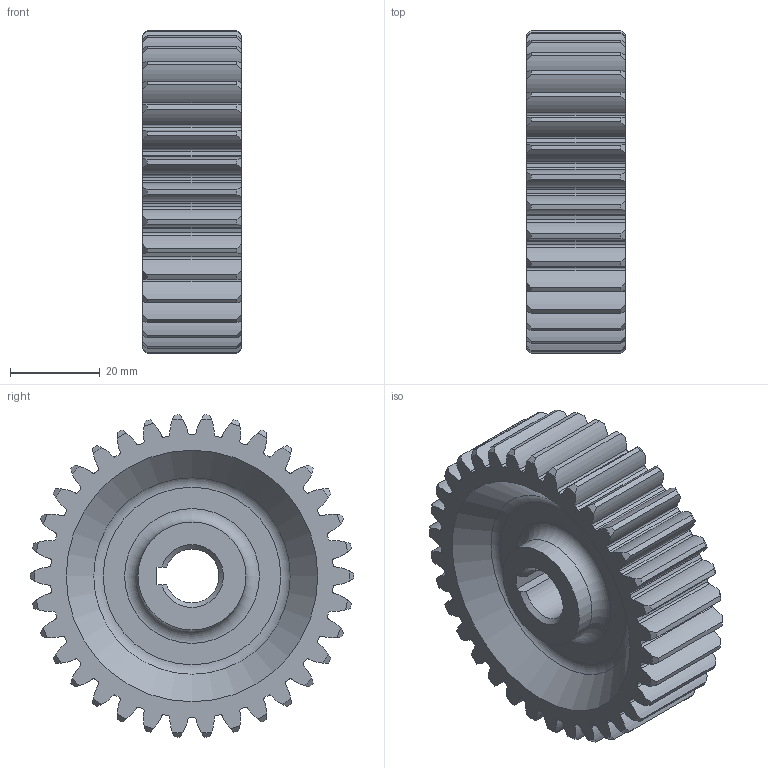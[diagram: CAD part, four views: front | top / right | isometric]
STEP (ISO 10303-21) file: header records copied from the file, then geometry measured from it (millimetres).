
FILE_DESCRIPTION(/* description */ (''),/* implementation_level */ '2;1');
FILE_NAME(/* name */ '',/* time_stamp */ '2026-03-26T11:23:52+09:00',/* author */ ('jhkim'),/* organization */ (''),/* preprocessor_version */ 'ST-DEVELOPER v20.1',/* originating_system */ 'Autodesk Inventor 2026',/* authorisation */ '');
FILE_SCHEMA (('AUTOMOTIVE_DESIGN { 1 0 10303 214 3 1 1 }'));
Length unit declared in the file: millimetre
Products named in the file (1): 스퍼 기어
Bounding box: 22 x 72 x 71.79 mm (x, y, z)
Volume: 56409 mm3; surface area: 18600 mm2
Topology: 1 solids, 1 shells, 292 faces, 858 edges, 572 vertices
Faces by surface type: cylinder 207, cone 72, plane 9, torus 4
Full cylindrical faces by diameter (mm): 24 x2
Entity records: 10181 total; most frequent: CARTESIAN_POINT 2139, DIRECTION 1804, ORIENTED_EDGE 1716, EDGE_CURVE 858, AXIS2_PLACEMENT_3D 793, VERTEX_POINT 572, CIRCLE 500, EDGE_LOOP 298
